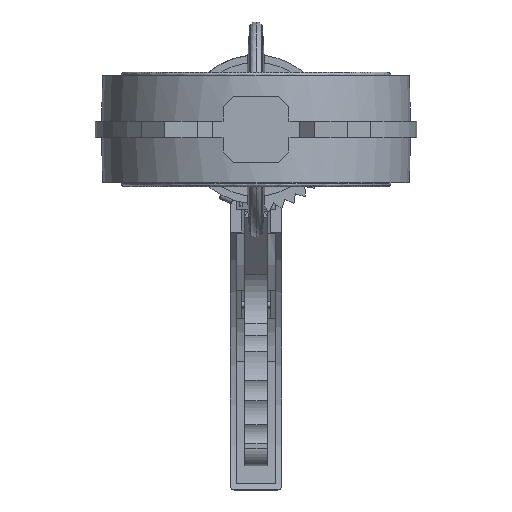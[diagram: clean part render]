
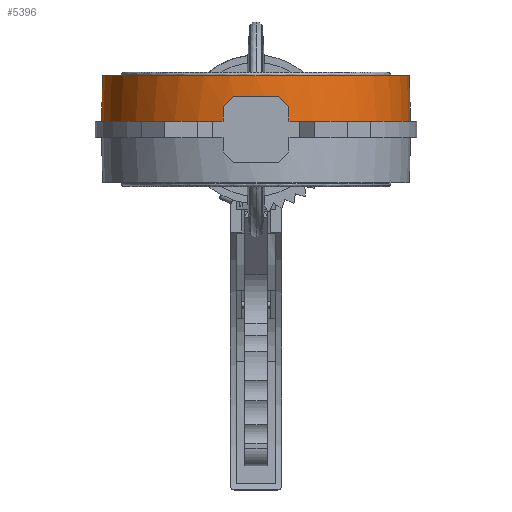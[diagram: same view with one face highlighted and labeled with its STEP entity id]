
A CAD part, front view. The second image highlights one B-rep face of the part: STEP entity #5396.
In plain terms, the highlighted conical face has half-angle 1 degrees and reference radius 74.884 mm.
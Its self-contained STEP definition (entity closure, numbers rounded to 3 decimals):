
#747 = VERTEX_POINT ( 'NONE', #32441 ) ;
#1632 = LINE ( 'NONE', #31423, #18770 ) ;
#2226 = CARTESIAN_POINT ( 'NONE',  ( 12.676, -73.64, 14.324 ) ) ;
#2648 = ORIENTED_EDGE ( 'NONE', *, *, #31682, .T. ) ;
#3128 = CIRCLE ( 'NONE', #43634, 74.884 ) ;
#3465 = CARTESIAN_POINT ( 'NONE',  ( -74.5, 0., 26. ) ) ;
#3719 = CARTESIAN_POINT ( 'NONE',  ( 16., -73.071, 8.667 ) ) ;
#3938 = CARTESIAN_POINT ( 'NONE',  ( -16., -73.03, 11. ) ) ;
#5396 = ADVANCED_FACE ( 'NONE', ( #10979 ), #62899, .T. ) ;
#5487 = DIRECTION ( 'NONE',  ( 0., 0., 1. ) ) ;
#10979 = FACE_OUTER_BOUND ( 'NONE', #58908, .T. ) ;
#11160 = DIRECTION ( 'NONE',  ( -1., 0., 0. ) ) ;
#11924 = DIRECTION ( 'NONE',  ( 0.017, 0., -1. ) ) ;
#12215 = CIRCLE ( 'NONE', #67042, 74.675 ) ;
#12231 = VERTEX_POINT ( 'NONE', #50321 ) ;
#12655 = DIRECTION ( 'NONE',  ( -0.017, 0., -1. ) ) ;
#12879 = CARTESIAN_POINT ( 'NONE',  ( -11., -73.86, 16. ) ) ;
#13717 = VERTEX_POINT ( 'NONE', #44075 ) ;
#16436 = LINE ( 'NONE', #24210, #45388 ) ;
#17132 = AXIS2_PLACEMENT_3D ( 'NONE', #30144, #37923, #71368 ) ;
#17914 = CARTESIAN_POINT ( 'NONE',  ( 11., -73.86, 16. ) ) ;
#18522 = DIRECTION ( 'NONE',  ( 0., 0., 1. ) ) ;
#18770 = VECTOR ( 'NONE', #12655, 1000. ) ;
#18839 = VERTEX_POINT ( 'NONE', #48741 ) ;
#20229 = CARTESIAN_POINT ( 'NONE',  ( 14.343, -73.363, 12.657 ) ) ;
#20938 = CARTESIAN_POINT ( 'NONE',  ( 16., -73.113, 6.333 ) ) ;
#22062 = VERTEX_POINT ( 'NONE', #57253 ) ;
#22128 = CARTESIAN_POINT ( 'NONE',  ( 16., -73.03, 11. ) ) ;
#22269 = ORIENTED_EDGE ( 'NONE', *, *, #51281, .F. ) ;
#22556 = CARTESIAN_POINT ( 'NONE',  ( -16., -73.03, 11. ) ) ;
#23191 = EDGE_CURVE ( 'NONE', #13717, #18839, #36995, .T. ) ;
#24182 = VERTEX_POINT ( 'NONE', #78050 ) ;
#24210 = CARTESIAN_POINT ( 'NONE',  ( 74.884, 0., 4. ) ) ;
#25165 = CARTESIAN_POINT ( 'NONE',  ( -12.676, -73.64, 14.324 ) ) ;
#25242 = CIRCLE ( 'NONE', #46160, 74.5 ) ;
#25788 = B_SPLINE_CURVE_WITH_KNOTS ( 'NONE', 3,
 ( #78546, #35966, #78948, #22556 ),
 .UNSPECIFIED., .F., .F.,
 ( 4, 4 ),
 ( 0., 0.007 ),
 .UNSPECIFIED. ) ;
#29399 = EDGE_CURVE ( 'NONE', #76818, #13717, #54775, .T. ) ;
#30144 = CARTESIAN_POINT ( 'NONE',  ( 0., 0., 4. ) ) ;
#31423 = CARTESIAN_POINT ( 'NONE',  ( -74.884, 0., 4. ) ) ;
#31682 = EDGE_CURVE ( 'NONE', #36583, #24182, #25788, .T. ) ;
#31967 = VERTEX_POINT ( 'NONE', #40027 ) ;
#32441 = CARTESIAN_POINT ( 'NONE',  ( 74.5, 0., 26. ) ) ;
#33861 = CARTESIAN_POINT ( 'NONE',  ( 0., 0., 26. ) ) ;
#35966 = CARTESIAN_POINT ( 'NONE',  ( -16., -73.113, 6.333 ) ) ;
#36234 = ORIENTED_EDGE ( 'NONE', *, *, #23191, .T. ) ;
#36583 = VERTEX_POINT ( 'NONE', #37113 ) ;
#36883 = CARTESIAN_POINT ( 'NONE',  ( 0., 0., 16. ) ) ;
#36990 = CARTESIAN_POINT ( 'NONE',  ( -14.343, -73.363, 12.657 ) ) ;
#36995 = B_SPLINE_CURVE_WITH_KNOTS ( 'NONE', 3,
 ( #22128, #3719, #20938, #70835 ),
 .UNSPECIFIED., .F., .F.,
 ( 4, 4 ),
 ( 0., 0.007 ),
 .UNSPECIFIED. ) ;
#37113 = CARTESIAN_POINT ( 'NONE',  ( -16., -73.155, 4. ) ) ;
#37923 = DIRECTION ( 'NONE',  ( 0., 0., -1. ) ) ;
#38606 = CARTESIAN_POINT ( 'NONE',  ( 11., -73.86, 16. ) ) ;
#39200 = DIRECTION ( 'NONE',  ( -1., 0., 0. ) ) ;
#39251 = ORIENTED_EDGE ( 'NONE', *, *, #46275, .T. ) ;
#39301 = CIRCLE ( 'NONE', #49770, 74.884 ) ;
#40027 = CARTESIAN_POINT ( 'NONE',  ( -74.884, 0., 4. ) ) ;
#41185 = ORIENTED_EDGE ( 'NONE', *, *, #43458, .F. ) ;
#41740 = ORIENTED_EDGE ( 'NONE', *, *, #74526, .T. ) ;
#42940 = CARTESIAN_POINT ( 'NONE',  ( 0., 0., 4. ) ) ;
#43301 =( BOUNDED_CURVE ( )  B_SPLINE_CURVE ( 3, ( #3938, #36990, #25165, #12879 ),
 .UNSPECIFIED., .F., .F. ) 
 B_SPLINE_CURVE_WITH_KNOTS ( ( 4, 4 ),
 ( 1.372, 1.44 ),
 .UNSPECIFIED. ) 
 CURVE ( )  GEOMETRIC_REPRESENTATION_ITEM ( )  RATIONAL_B_SPLINE_CURVE ( ( 1., 1., 1., 1. ) ) 
 REPRESENTATION_ITEM ( '' )  );
#43458 = EDGE_CURVE ( 'NONE', #64779, #747, #25242, .T. ) ;
#43560 = ORIENTED_EDGE ( 'NONE', *, *, #60484, .T. ) ;
#43634 = AXIS2_PLACEMENT_3D ( 'NONE', #54166, #5487, #72964 ) ;
#44075 = CARTESIAN_POINT ( 'NONE',  ( 16., -73.03, 11. ) ) ;
#45388 = VECTOR ( 'NONE', #11924, 1000. ) ;
#45763 = EDGE_CURVE ( 'NONE', #22062, #76818, #12215, .T. ) ;
#46160 = AXIS2_PLACEMENT_3D ( 'NONE', #33861, #52738, #39200 ) ;
#46275 = EDGE_CURVE ( 'NONE', #24182, #22062, #43301, .T. ) ;
#48741 = CARTESIAN_POINT ( 'NONE',  ( 16., -73.155, 4. ) ) ;
#49770 = AXIS2_PLACEMENT_3D ( 'NONE', #42940, #78936, #67901 ) ;
#50124 = ORIENTED_EDGE ( 'NONE', *, *, #64897, .T. ) ;
#50321 = CARTESIAN_POINT ( 'NONE',  ( 74.884, 0., 4. ) ) ;
#51281 = EDGE_CURVE ( 'NONE', #747, #12231, #16436, .T. ) ;
#52738 = DIRECTION ( 'NONE',  ( 0., 0., 1. ) ) ;
#54166 = CARTESIAN_POINT ( 'NONE',  ( 0., 0., 4. ) ) ;
#54775 =( BOUNDED_CURVE ( )  B_SPLINE_CURVE ( 3, ( #38606, #2226, #20229, #64394 ),
 .UNSPECIFIED., .F., .F. ) 
 B_SPLINE_CURVE_WITH_KNOTS ( ( 4, 4 ),
 ( 4.843, 4.911 ),
 .UNSPECIFIED. ) 
 CURVE ( )  GEOMETRIC_REPRESENTATION_ITEM ( )  RATIONAL_B_SPLINE_CURVE ( ( 1., 1., 1., 1. ) ) 
 REPRESENTATION_ITEM ( '' )  );
#57253 = CARTESIAN_POINT ( 'NONE',  ( -11., -73.86, 16. ) ) ;
#58908 = EDGE_LOOP ( 'NONE', ( #22269, #41185, #41740, #43560, #2648, #39251, #78098, #76901, #36234, #50124 ) ) ;
#60484 = EDGE_CURVE ( 'NONE', #31967, #36583, #39301, .T. ) ;
#62899 = CONICAL_SURFACE ( 'NONE', #17132, 74.884, 0.017 ) ;
#64394 = CARTESIAN_POINT ( 'NONE',  ( 16., -73.03, 11. ) ) ;
#64779 = VERTEX_POINT ( 'NONE', #3465 ) ;
#64897 = EDGE_CURVE ( 'NONE', #18839, #12231, #3128, .T. ) ;
#67042 = AXIS2_PLACEMENT_3D ( 'NONE', #36883, #18522, #11160 ) ;
#67901 = DIRECTION ( 'NONE',  ( -1., 0., 0. ) ) ;
#70835 = CARTESIAN_POINT ( 'NONE',  ( 16., -73.155, 4. ) ) ;
#71368 = DIRECTION ( 'NONE',  ( -1., 0., 0. ) ) ;
#72964 = DIRECTION ( 'NONE',  ( -1., 0., 0. ) ) ;
#74526 = EDGE_CURVE ( 'NONE', #64779, #31967, #1632, .T. ) ;
#76818 = VERTEX_POINT ( 'NONE', #17914 ) ;
#76901 = ORIENTED_EDGE ( 'NONE', *, *, #29399, .T. ) ;
#78050 = CARTESIAN_POINT ( 'NONE',  ( -16., -73.03, 11. ) ) ;
#78098 = ORIENTED_EDGE ( 'NONE', *, *, #45763, .T. ) ;
#78546 = CARTESIAN_POINT ( 'NONE',  ( -16., -73.155, 4. ) ) ;
#78936 = DIRECTION ( 'NONE',  ( 0., 0., 1. ) ) ;
#78948 = CARTESIAN_POINT ( 'NONE',  ( -16., -73.071, 8.667 ) ) ;
